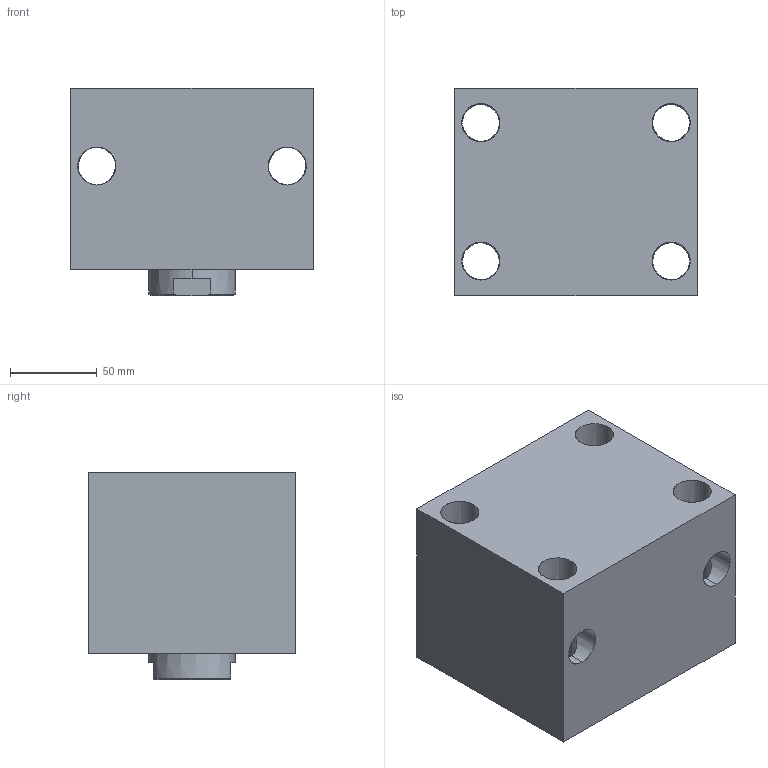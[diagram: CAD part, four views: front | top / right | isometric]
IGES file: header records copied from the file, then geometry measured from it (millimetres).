
Start section: SolidWorks IGES file using analytic representation for surfaces
Global section: file name: D:\karuppas\Clasp\3D model\Block cylinder B01C-Female thread\B01C-825F\Block cylinder B01C-825F.IGS; native system: SolidWorks 2017; preprocessor: SolidWorks 2017; author: pc; date: 220710.000802; units: millimetre
Bounding box: 140 x 120 x 120 mm (x, y, z)
Surface area: 162448.3 mm2 (no closed solid volume)
Topology: 0 solids, 0 shells, 351 faces, 5525 edges, 5519 vertices
Faces by surface type: bspline 299, revolution 52
